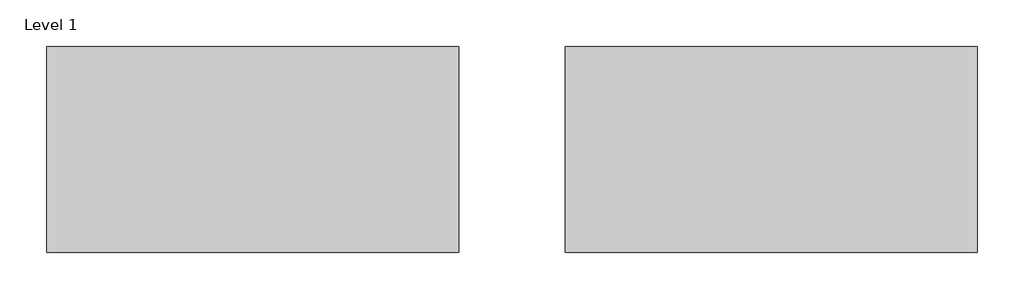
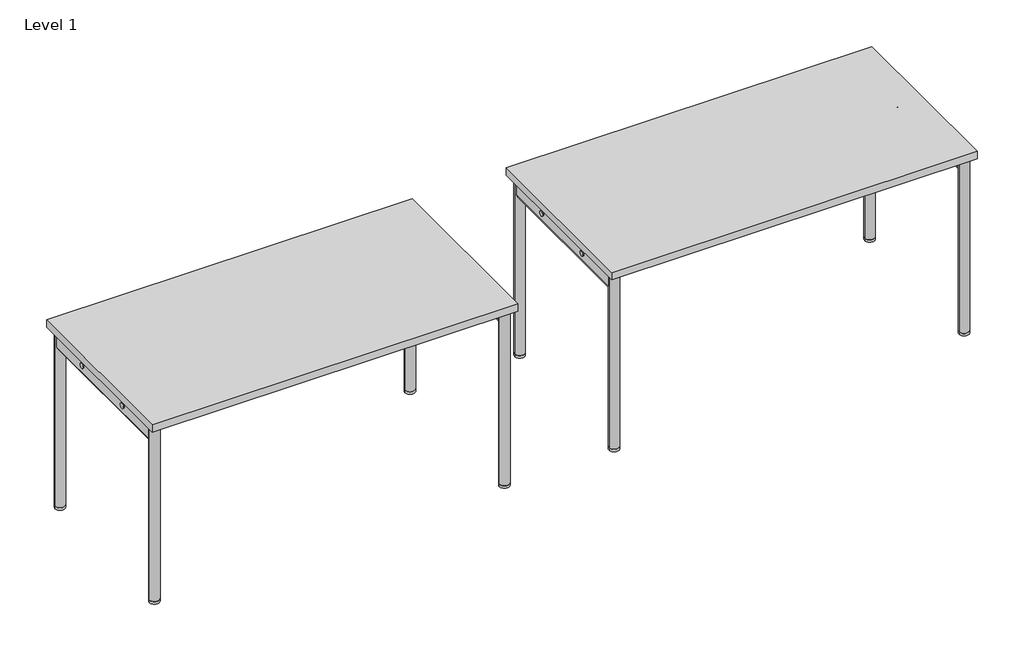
# One storey: 2 furniture elements.
"""IFC4 building model written with IfcOpenShell, lengths in millimetres."""

from ifc_helpers import new_model, si_unit, origin, place, context, project, spatial, transform, mapped, element, save
from components import furniture_1f168606

model = new_model("IFC4")

# Units and contexts
model_context = context("Model", 3, world=origin())
ifc_project = project(units=[si_unit("LENGTHUNIT", "METRE", prefix="MILLI")], contexts=[model_context])

# Site, building, storey
site = spatial("IfcSite", under=ifc_project)
building = spatial("IfcBuilding", under=site)
storey = spatial("IfcBuildingStorey", under=building, Name="Level 1", Elevation=0.0)

# Furniture
placement = place(None, origin())
furniture_shape = furniture_1f168606(model_context)
element("IfcFurniture", 1, ObjectType="Audo Copenhagen - Co Collection - Table - 1400x700 : Terra tabletop with black legs", at=placement, inside=storey, context=model_context, shape_type="MappedRepresentation", body=[
    mapped(furniture_shape, transform((-1703.1408688, 5648.5070822, 0.0), x_axis=(1.0, 0.0, 0.0), y_axis=(0.0, 1.0, 0.0), z_axis=(0.0, 0.0, 1.0))),
])
element("IfcFurniture", 2, ObjectType="Audo Copenhagen - Co Collection - Table - 1400x700 : Crème tabletop with chrome legs", at=placement, inside=storey, context=model_context, shape_type="MappedRepresentation", body=[
    mapped(furniture_shape, transform((56.8591312, 5648.5070822, 0.0), x_axis=(1.0, 0.0, 0.0), y_axis=(0.0, 1.0, 0.0), z_axis=(0.0, 0.0, 1.0))),
])

save(model, "model.ifc")
